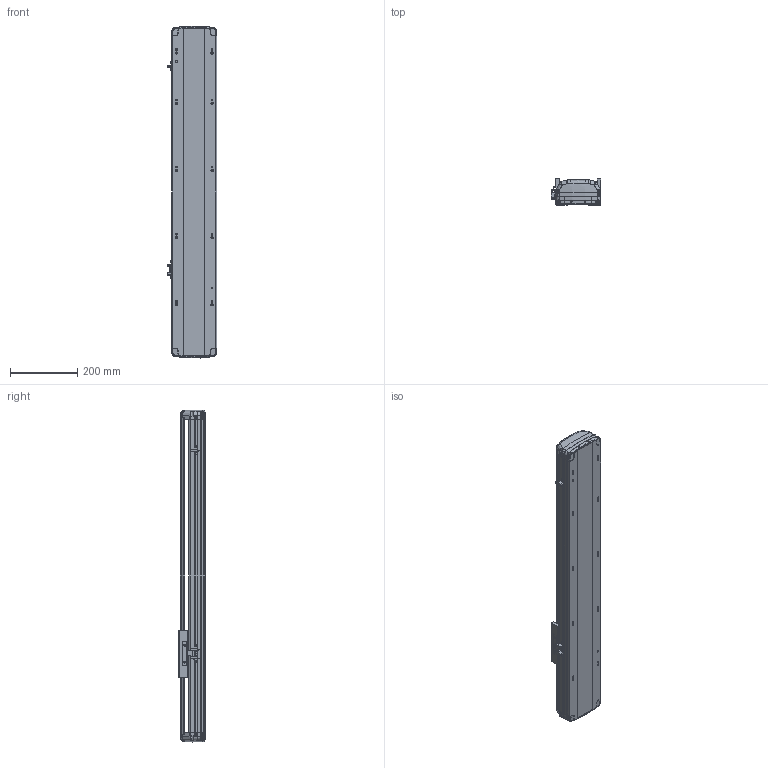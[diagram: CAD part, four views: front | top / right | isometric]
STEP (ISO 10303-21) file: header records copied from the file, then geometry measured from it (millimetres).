
FILE_DESCRIPTION (( 'STEP AP214' ), '1' );
FILE_NAME ('RTH14-XX-600-B-M20-C4.STEP', '2025-10-25T02:21:31', ( 'Microsoft' ), ( 'Microsoft' ), 'SwSTEP 2.0', 'SolidWorks 2018', '' );
FILE_SCHEMA (( 'AUTOMOTIVE_DESIGN' ));
Length unit declared in the file: millimetre
Products named in the file (7): N_RTH14-R-004-SFSR16賑釱^RTH14-XX-XX-B-M20-C4; N_OMRON EE-SX672 传感器^RTH14-XX-XX-B-M20-C4; N_RTH14-B-007奻裔^RTH14-XX-XX-B-M20-C4; N_RTH13-L-012感应片（外置）^RTH14-XX-XX-B-M20-C4; RTH14-XX-600-B-M20-C4; N_RTH14-B-011P菁釱^RTH14-XX-XX-B-M20-C4; N_RTH14-GY-001P^RTH14-XX-XX-B-M20-C4
Assembly tree (9 placements, depth 2):
  RTH14-XX-600-B-M20-C4
    N_RTH14-B-011P菁釱^RTH14-XX-XX-B-M20-C4
    N_RTH14-B-007奻裔^RTH14-XX-XX-B-M20-C4
    N_RTH13-L-012感应片（外置）^RTH14-XX-XX-B-M20-C4
    N_OMRON EE-SX672 传感器^RTH14-XX-XX-B-M20-C4  x3
    N_RTH14-R-004-SFSR16賑釱^RTH14-XX-XX-B-M20-C4
    N_RTH14-GY-001P^RTH14-XX-XX-B-M20-C4  x2
Bounding box: 148.5 x 78.03 x 988.74 mm (x, y, z)
Volume: 4090227.9 mm3; surface area: 946739.5 mm2
Topology: 9 solids, 9 shells, 1918 faces, 5404 edges, 3518 vertices
Faces by surface type: plane 979, bspline 450, cylinder 425, cone 56, torus 8
Entity records: 46660 total; most frequent: CARTESIAN_POINT 20866, ORIENTED_EDGE 5824, DIRECTION 4275, EDGE_CURVE 2912, VERTEX_POINT 1904, VECTOR 1639, LINE 1639, AXIS2_PLACEMENT_3D 1318
